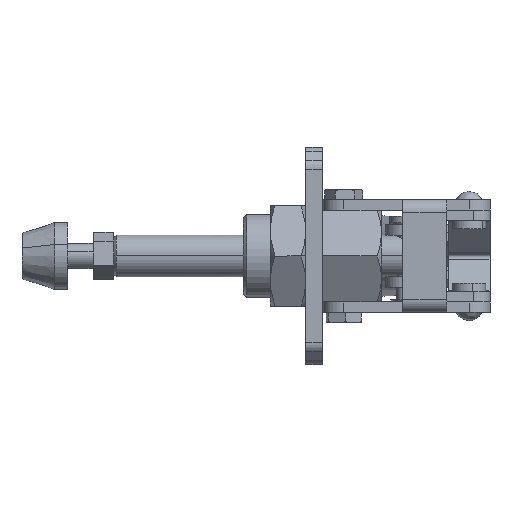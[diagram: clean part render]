
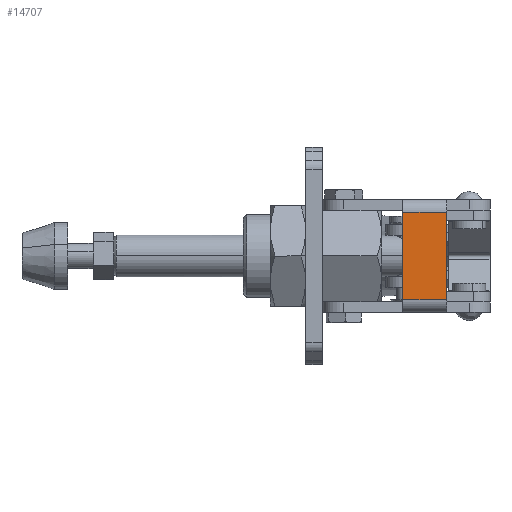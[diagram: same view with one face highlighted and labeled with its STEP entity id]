
A CAD part, front view. The second image highlights one B-rep face of the part: STEP entity #14707.
In plain terms, the highlighted planar face has unit normal (0, -1, 0).
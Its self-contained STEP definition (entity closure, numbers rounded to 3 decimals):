
#109 = DIRECTION ( 'NONE',  ( 1., 0., 0. ) ) ;
#2057 = EDGE_CURVE ( 'NONE', #7676, #4926, #11280, .T. ) ;
#4925 = CARTESIAN_POINT ( 'NONE',  ( 0.9, -8., -2.5 ) ) ;
#4926 = VERTEX_POINT ( 'NONE', #13300 ) ;
#4932 = VERTEX_POINT ( 'NONE', #8736 ) ;
#5926 = DIRECTION ( 'NONE',  ( -1., 0., 0. ) ) ;
#6072 = CARTESIAN_POINT ( 'NONE',  ( -9.6, -8., -3. ) ) ;
#7676 = VERTEX_POINT ( 'NONE', #21253 ) ;
#7999 = CARTESIAN_POINT ( 'NONE',  ( 0., -8., -24. ) ) ;
#8109 = ORIENTED_EDGE ( 'NONE', *, *, #17281, .T. ) ;
#8736 = CARTESIAN_POINT ( 'NONE',  ( -9.6, -8., -3. ) ) ;
#10376 = VERTEX_POINT ( 'NONE', #25929 ) ;
#10697 = EDGE_CURVE ( 'NONE', #4932, #4926, #23397, .T. ) ;
#11280 = LINE ( 'NONE', #4925, #20591 ) ;
#12297 = AXIS2_PLACEMENT_3D ( 'NONE', #13605, #26249, #13199 ) ;
#12604 = EDGE_CURVE ( 'NONE', #7676, #10376, #27005, .T. ) ;
#13199 = DIRECTION ( 'NONE',  ( 0., 0., 1. ) ) ;
#13300 = CARTESIAN_POINT ( 'NONE',  ( 0.9, -8., -3. ) ) ;
#13605 = CARTESIAN_POINT ( 'NONE',  ( 0., -8., 0. ) ) ;
#14541 = VECTOR ( 'NONE', #18322, 1000. ) ;
#14707 = ADVANCED_FACE ( 'NONE', ( #17638 ), #15559, .F. ) ;
#15201 = ORIENTED_EDGE ( 'NONE', *, *, #12604, .F. ) ;
#15559 = PLANE ( 'NONE',  #12297 ) ;
#17281 = EDGE_CURVE ( 'NONE', #4932, #10376, #22092, .T. ) ;
#17638 = FACE_OUTER_BOUND ( 'NONE', #23086, .T. ) ;
#18322 = DIRECTION ( 'NONE',  ( 0., 0., -1. ) ) ;
#19871 = DIRECTION ( 'NONE',  ( 0., 0., 1. ) ) ;
#20405 = CARTESIAN_POINT ( 'NONE',  ( -9.6, -8., -13.5 ) ) ;
#20591 = VECTOR ( 'NONE', #19871, 1000. ) ;
#21253 = CARTESIAN_POINT ( 'NONE',  ( 0.9, -8., -24. ) ) ;
#21405 = ORIENTED_EDGE ( 'NONE', *, *, #2057, .T. ) ;
#22092 = LINE ( 'NONE', #20405, #14541 ) ;
#23086 = EDGE_LOOP ( 'NONE', ( #8109, #15201, #21405, #24890 ) ) ;
#23397 = LINE ( 'NONE', #6072, #26013 ) ;
#24722 = VECTOR ( 'NONE', #5926, 1000. ) ;
#24890 = ORIENTED_EDGE ( 'NONE', *, *, #10697, .F. ) ;
#25929 = CARTESIAN_POINT ( 'NONE',  ( -9.6, -8., -24. ) ) ;
#26013 = VECTOR ( 'NONE', #109, 1000. ) ;
#26249 = DIRECTION ( 'NONE',  ( 0., 1., 0. ) ) ;
#27005 = LINE ( 'NONE', #7999, #24722 ) ;
